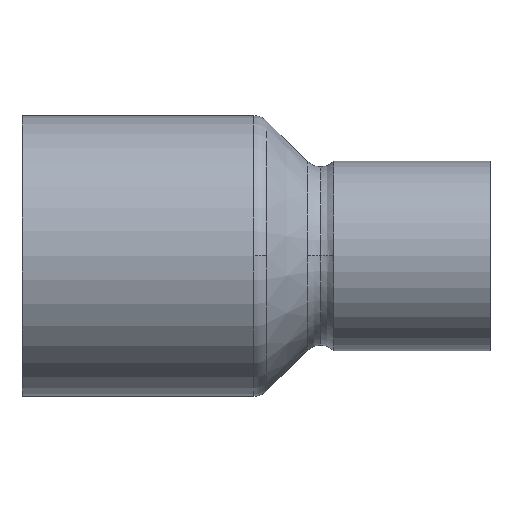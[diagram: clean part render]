
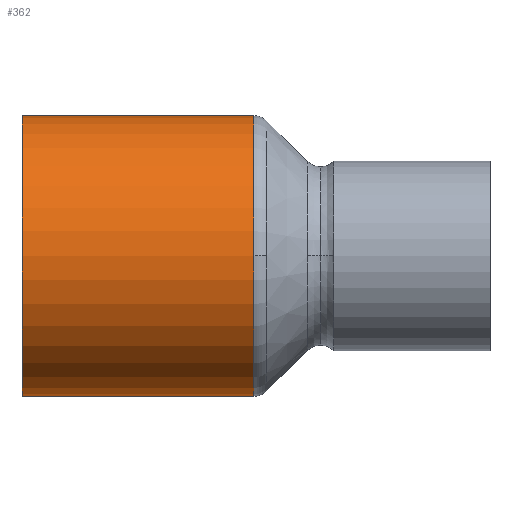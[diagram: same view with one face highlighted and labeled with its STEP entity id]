
A CAD part, top view. The second image highlights one B-rep face of the part: STEP entity #362.
In plain terms, the highlighted cylindrical face has radius 7.5 mm (diameter 15 mm), a partial arc.
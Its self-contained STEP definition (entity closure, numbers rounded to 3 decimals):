
#312=CARTESIAN_POINT('',(6.187,0.0,0.0));
#313=DIRECTION('',(1.0,0.0,0.0));
#314=DIRECTION('',(0.0,1.0,0.0));
#315=AXIS2_PLACEMENT_3D('',#312,#313,#314);
#316=CYLINDRICAL_SURFACE('',#315,7.5);
#317=CARTESIAN_POINT('',(0.,7.5,0.0));
#318=VERTEX_POINT('',#317);
#319=CARTESIAN_POINT('',(12.373,7.5,0.0));
#320=VERTEX_POINT('',#319);
#321=CARTESIAN_POINT('',(0.,7.5,0.0));
#322=DIRECTION('',(1.0,0.0,0.0));
#323=VECTOR('',#322,12.373);
#324=LINE('',#321,#323);
#325=EDGE_CURVE('',#318,#320,#324,.T.);
#326=ORIENTED_EDGE('',*,*,#325,.F.);
#327=CARTESIAN_POINT('',(0.,-7.5,0.));
#328=VERTEX_POINT('',#327);
#329=CARTESIAN_POINT('',(0.,0.0,0.0));
#330=DIRECTION('',(1.0,0.0,0.0));
#331=DIRECTION('',(0.0,1.0,0.0));
#332=AXIS2_PLACEMENT_3D('',#329,#330,#331);
#333=CIRCLE('',#332,7.5);
#334=EDGE_CURVE('',#318,#328,#333,.T.);
#335=ORIENTED_EDGE('',*,*,#334,.T.);
#336=CARTESIAN_POINT('',(12.373,-7.5,0.));
#337=VERTEX_POINT('',#336);
#338=CARTESIAN_POINT('',(12.373,-7.5,0.));
#339=DIRECTION('',(-1.0,0.0,0.0));
#340=VECTOR('',#339,12.373);
#341=LINE('',#338,#340);
#342=EDGE_CURVE('',#337,#328,#341,.T.);
#343=ORIENTED_EDGE('',*,*,#342,.F.);
#344=CARTESIAN_POINT('',(12.373,0.,7.5));
#345=VERTEX_POINT('',#344);
#346=CARTESIAN_POINT('',(12.373,0.0,0.0));
#347=DIRECTION('',(1.0,0.0,0.0));
#348=DIRECTION('',(0.0,1.0,0.0));
#349=AXIS2_PLACEMENT_3D('',#346,#347,#348);
#350=CIRCLE('',#349,7.5);
#351=EDGE_CURVE('',#345,#337,#350,.T.);
#352=ORIENTED_EDGE('',*,*,#351,.F.);
#353=CARTESIAN_POINT('',(12.373,0.0,0.0));
#354=DIRECTION('',(1.0,0.0,0.0));
#355=DIRECTION('',(0.0,1.0,0.0));
#356=AXIS2_PLACEMENT_3D('',#353,#354,#355);
#357=CIRCLE('',#356,7.5);
#358=EDGE_CURVE('',#320,#345,#357,.T.);
#359=ORIENTED_EDGE('',*,*,#358,.F.);
#360=EDGE_LOOP('',(#326,#335,#343,#352,#359));
#361=FACE_OUTER_BOUND('',#360,.T.);
#362=ADVANCED_FACE('',(#361),#316,.T.);
